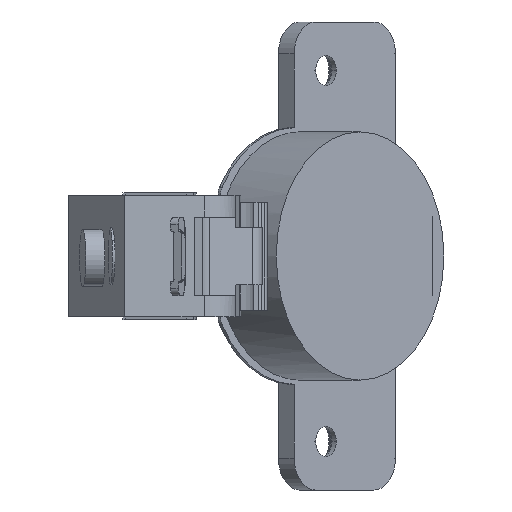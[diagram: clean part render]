
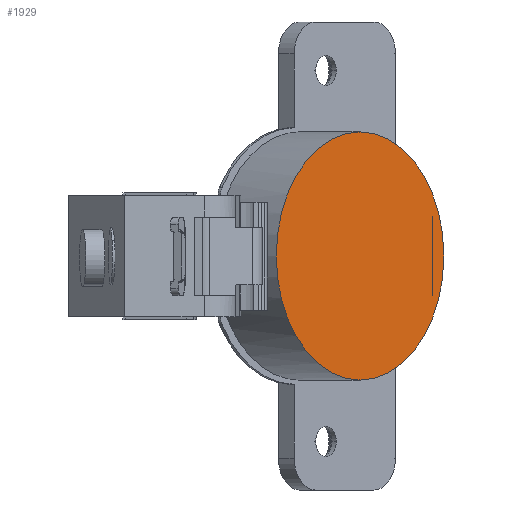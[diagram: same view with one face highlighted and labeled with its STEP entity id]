
A CAD part, left-side view. The second image highlights one B-rep face of the part: STEP entity #1929.
In plain terms, the highlighted planar face has unit normal (-0.675, -0.738, 0).
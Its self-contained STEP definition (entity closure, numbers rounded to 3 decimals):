
#104 = CIRCLE ( 'NONE', #8437, 17.4 ) ;
#162 = CARTESIAN_POINT ( 'NONE',  ( 58.626, -7.583, -5.493 ) ) ;
#285 = CIRCLE ( 'NONE', #438, 17.4 ) ;
#438 = AXIS2_PLACEMENT_3D ( 'NONE', #3975, #2555, #7833 ) ;
#534 = CARTESIAN_POINT ( 'NONE',  ( 58.626, -7.583, 5.593 ) ) ;
#589 = DIRECTION ( 'NONE',  ( 0., 0., 1. ) ) ;
#916 = ORIENTED_EDGE ( 'NONE', *, *, #5094, .T. ) ;
#1201 = CARTESIAN_POINT ( 'NONE',  ( 47.557, 2.54, 17.45 ) ) ;
#1847 = EDGE_LOOP ( 'NONE', ( #8080, #2986, #2759, #4798 ) ) ;
#1929 = ADVANCED_FACE ( 'NONE', ( #5970, #2983 ), #2881, .F. ) ;
#2226 = CARTESIAN_POINT ( 'NONE',  ( 58.626, -7.583, 5.593 ) ) ;
#2555 = DIRECTION ( 'NONE',  ( -0.675, -0.738, 0. ) ) ;
#2759 = ORIENTED_EDGE ( 'NONE', *, *, #6907, .T. ) ;
#2881 = PLANE ( 'NONE',  #8536 ) ;
#2934 = DIRECTION ( 'NONE',  ( 0.675, 0.738, 0. ) ) ;
#2983 = FACE_OUTER_BOUND ( 'NONE', #7630, .T. ) ;
#2986 = ORIENTED_EDGE ( 'NONE', *, *, #9227, .F. ) ;
#3080 = VECTOR ( 'NONE', #6753, 1000. ) ;
#3215 = CIRCLE ( 'NONE', #9039, 1.2 ) ;
#3493 = CARTESIAN_POINT ( 'NONE',  ( 47.557, 2.54, 0.05 ) ) ;
#3974 = EDGE_CURVE ( 'NONE', #7388, #5449, #7391, .T. ) ;
#3975 = CARTESIAN_POINT ( 'NONE',  ( 47.557, 2.54, 0.05 ) ) ;
#4426 = DIRECTION ( 'NONE',  ( 0., 0., 1. ) ) ;
#4624 = AXIS2_PLACEMENT_3D ( 'NONE', #8140, #4426, #7394 ) ;
#4798 = ORIENTED_EDGE ( 'NONE', *, *, #7665, .T. ) ;
#4821 = VERTEX_POINT ( 'NONE', #2226 ) ;
#5094 = EDGE_CURVE ( 'NONE', #5281, #7108, #104, .T. ) ;
#5281 = VERTEX_POINT ( 'NONE', #7780 ) ;
#5449 = VERTEX_POINT ( 'NONE', #8170 ) ;
#5970 = FACE_BOUND ( 'NONE', #1847, .T. ) ;
#6189 = CARTESIAN_POINT ( 'NONE',  ( 58.626, -7.583, -5.493 ) ) ;
#6500 = DIRECTION ( 'NONE',  ( -0.675, -0.738, 0. ) ) ;
#6641 = DIRECTION ( 'NONE',  ( 0.738, -0.675, 0. ) ) ;
#6715 = EDGE_CURVE ( 'NONE', #7108, #5281, #285, .T. ) ;
#6753 = DIRECTION ( 'NONE',  ( 0., 0., 1. ) ) ;
#6798 = CARTESIAN_POINT ( 'NONE',  ( 58.626, -7.583, 5.614 ) ) ;
#6907 = EDGE_CURVE ( 'NONE', #9477, #4821, #7281, .T. ) ;
#7108 = VERTEX_POINT ( 'NONE', #1201 ) ;
#7281 = LINE ( 'NONE', #534, #8002 ) ;
#7387 = CARTESIAN_POINT ( 'NONE',  ( 59.436, -6.698, -5.493 ) ) ;
#7388 = VERTEX_POINT ( 'NONE', #162 ) ;
#7391 = LINE ( 'NONE', #6798, #3080 ) ;
#7394 = DIRECTION ( 'NONE',  ( 0.738, -0.675, 0. ) ) ;
#7473 = CIRCLE ( 'NONE', #4624, 1.2 ) ;
#7630 = EDGE_LOOP ( 'NONE', ( #8904, #916 ) ) ;
#7665 = EDGE_CURVE ( 'NONE', #4821, #5449, #7473, .T. ) ;
#7780 = CARTESIAN_POINT ( 'NONE',  ( 47.557, 2.54, -17.35 ) ) ;
#7833 = DIRECTION ( 'NONE',  ( 0.738, -0.675, 0. ) ) ;
#8002 = VECTOR ( 'NONE', #589, 1000. ) ;
#8080 = ORIENTED_EDGE ( 'NONE', *, *, #3974, .F. ) ;
#8130 = DIRECTION ( 'NONE',  ( 0., 0., 1. ) ) ;
#8140 = CARTESIAN_POINT ( 'NONE',  ( 59.436, -6.698, 5.593 ) ) ;
#8170 = CARTESIAN_POINT ( 'NONE',  ( 58.626, -7.583, 5.593 ) ) ;
#8437 = AXIS2_PLACEMENT_3D ( 'NONE', #3493, #6500, #9558 ) ;
#8536 = AXIS2_PLACEMENT_3D ( 'NONE', #9030, #2934, #8979 ) ;
#8904 = ORIENTED_EDGE ( 'NONE', *, *, #6715, .T. ) ;
#8979 = DIRECTION ( 'NONE',  ( 0., 0., 1. ) ) ;
#9030 = CARTESIAN_POINT ( 'NONE',  ( 55.649, -4.861, -7.65 ) ) ;
#9039 = AXIS2_PLACEMENT_3D ( 'NONE', #7387, #8130, #6641 ) ;
#9227 = EDGE_CURVE ( 'NONE', #9477, #7388, #3215, .T. ) ;
#9477 = VERTEX_POINT ( 'NONE', #6189 ) ;
#9558 = DIRECTION ( 'NONE',  ( 0.738, -0.675, 0. ) ) ;
